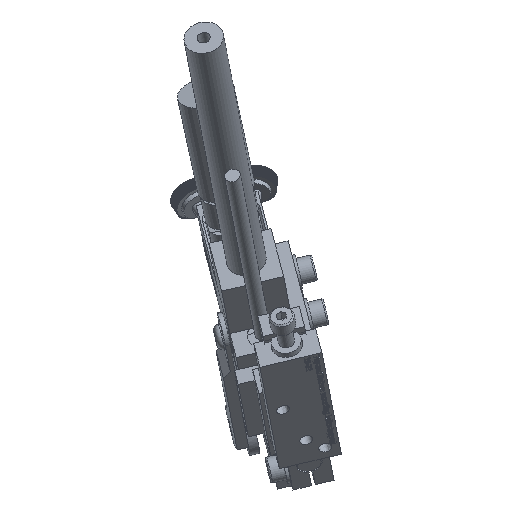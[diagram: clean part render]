
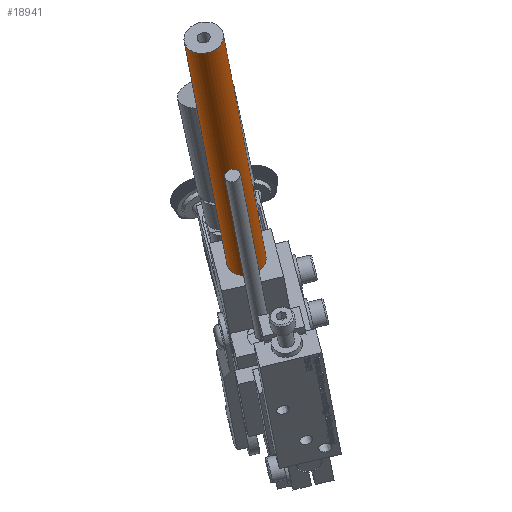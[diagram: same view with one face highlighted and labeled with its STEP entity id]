
A CAD part, isometric view. The second image highlights one B-rep face of the part: STEP entity #18941.
In plain terms, the highlighted cylindrical face has radius 5.969 mm (diameter 11.938 mm), a full revolution.
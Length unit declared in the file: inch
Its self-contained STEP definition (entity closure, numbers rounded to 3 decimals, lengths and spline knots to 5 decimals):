
#18914=CARTESIAN_POINT('',(-0.40937,1.35286,1.92555));
#18915=DIRECTION('',(-0.282,-0.115,0.953));
#18916=DIRECTION('',(0.801,-0.575,0.168));
#18917=AXIS2_PLACEMENT_3D('',#18914,#18915,#18916);
#18918=CYLINDRICAL_SURFACE('',#18917,0.235);
#18919=CARTESIAN_POINT('',(-1.79591,1.00011,5.93439));
#18920=VERTEX_POINT('',#18919);
#18921=CARTESIAN_POINT('',(-1.60771,0.86501,5.97382));
#18922=DIRECTION('',(0.282,0.115,-0.953));
#18923=DIRECTION('',(0.801,-0.575,0.168));
#18924=AXIS2_PLACEMENT_3D('',#18921,#18922,#18923);
#18925=CIRCLE('',#18924,0.235);
#18926=EDGE_CURVE('',#18920,#18920,#18925,.T.);
#18927=ORIENTED_EDGE('',*,*,#18926,.T.);
#18928=EDGE_LOOP('',(#18927));
#18929=FACE_OUTER_BOUND('',#18928,.T.);
#18930=CARTESIAN_POINT('',(-0.59757,1.48796,1.88612));
#18931=VERTEX_POINT('',#18930);
#18932=CARTESIAN_POINT('',(-0.40937,1.35286,1.92555));
#18933=DIRECTION('',(0.282,0.115,-0.953));
#18934=DIRECTION('',(0.801,-0.575,0.168));
#18935=AXIS2_PLACEMENT_3D('',#18932,#18933,#18934);
#18936=CIRCLE('',#18935,0.235);
#18937=EDGE_CURVE('',#18931,#18931,#18936,.T.);
#18938=ORIENTED_EDGE('',*,*,#18937,.F.);
#18939=EDGE_LOOP('',(#18938));
#18940=FACE_BOUND('',#18939,.T.);
#18941=ADVANCED_FACE('',(#18929,#18940),#18918,.T.);
